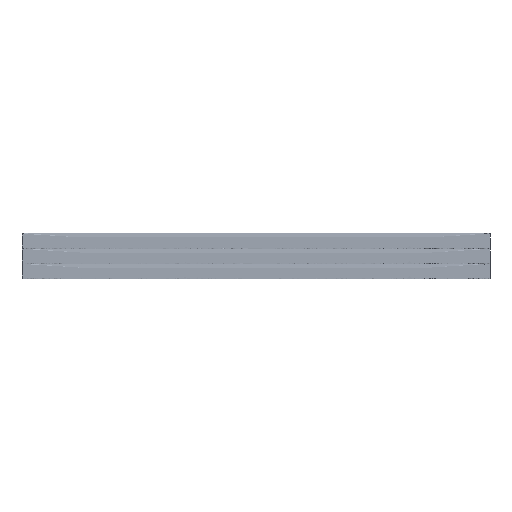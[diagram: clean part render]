
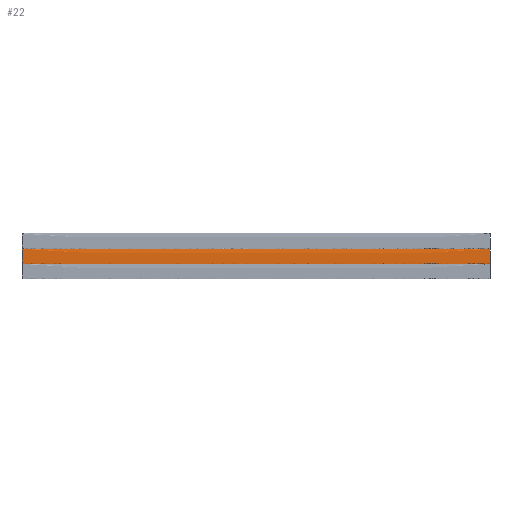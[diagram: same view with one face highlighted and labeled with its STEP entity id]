
A CAD part, top view. The second image highlights one B-rep face of the part: STEP entity #22.
In plain terms, the highlighted free-form (B-spline) face has degree [2, 1] with [17, 2] control points.
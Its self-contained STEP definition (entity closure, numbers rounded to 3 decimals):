
#22=ADVANCED_FACE('',(#25),#79,.T.);
#25=FACE_OUTER_BOUND('',#28,.T.);
#28=EDGE_LOOP('',(#34,#35,#36,#37));
#34=ORIENTED_EDGE('',*,*,#46,.T.);
#35=ORIENTED_EDGE('',*,*,#47,.T.);
#36=ORIENTED_EDGE('',*,*,#48,.T.);
#37=ORIENTED_EDGE('',*,*,#49,.T.);
#46=EDGE_CURVE('',#70,#71,#62,.T.);
#47=EDGE_CURVE('',#71,#72,#56,.T.);
#48=EDGE_CURVE('',#72,#73,#63,.T.);
#49=EDGE_CURVE('',#73,#70,#57,.T.);
#56=B_SPLINE_CURVE_WITH_KNOTS('',1,(#238,#239),.UNSPECIFIED.,.F.,.F.,(2,
2),(0.,6200.),.UNSPECIFIED.);
#57=B_SPLINE_CURVE_WITH_KNOTS('',1,(#257,#258),.UNSPECIFIED.,.F.,.F.,(2,
2),(-6200.,0.),.UNSPECIFIED.);
#62=(
BOUNDED_CURVE()
B_SPLINE_CURVE(2,(#221,#222,#223,#224,#225,#226,#227,#228,#229,#230,#231,
#232,#233,#234,#235,#236,#237),.UNSPECIFIED.,.F.,.F.)
B_SPLINE_CURVE_WITH_KNOTS((3,2,2,2,2,2,2,2,3),(260.192,261.675,
262.508,264.079,459.079,460.649,462.649,
464.22,470.82),.UNSPECIFIED.)
CURVE()
GEOMETRIC_REPRESENTATION_ITEM()
RATIONAL_B_SPLINE_CURVE((1.,0.737,1.,1.,1.,0.707,
1.,1.,1.,0.707,1.,1.,1.,0.707,1.,1.,1.))
REPRESENTATION_ITEM('')
);
#63=(
BOUNDED_CURVE()
B_SPLINE_CURVE(2,(#240,#241,#242,#243,#244,#245,#246,#247,#248,#249,#250,
#251,#252,#253,#254,#255,#256),.UNSPECIFIED.,.F.,.F.)
B_SPLINE_CURVE_WITH_KNOTS((3,2,2,2,2,2,2,2,3),(-470.82,-464.22,
-462.649,-460.649,-459.079,-264.079,
-262.508,-261.675,-260.192),.UNSPECIFIED.)
CURVE()
GEOMETRIC_REPRESENTATION_ITEM()
RATIONAL_B_SPLINE_CURVE((1.,1.,1.,0.707,1.,1.,1.,0.707,
1.,1.,1.,0.707,1.,1.,1.,0.737,1.))
REPRESENTATION_ITEM('')
);
#70=VERTEX_POINT('',#217);
#71=VERTEX_POINT('',#218);
#72=VERTEX_POINT('',#219);
#73=VERTEX_POINT('',#220);
#79=(
BOUNDED_SURFACE()
B_SPLINE_SURFACE(2,1,((#183,#184),(#185,#186),(#187,#188),(#189,#190),(#191,
#192),(#193,#194),(#195,#196),(#197,#198),(#199,#200),(#201,#202),(#203,
#204),(#205,#206),(#207,#208),(#209,#210),(#211,#212),(#213,#214),(#215,
#216)),.UNSPECIFIED.,.F.,.F.,.F.)
B_SPLINE_SURFACE_WITH_KNOTS((3,2,2,2,2,2,2,2,3),(2,2),(260.192,
261.675,262.508,264.079,459.079,460.649,
462.649,464.22,470.82),(0.,6200.),
 .UNSPECIFIED.)
GEOMETRIC_REPRESENTATION_ITEM()
RATIONAL_B_SPLINE_SURFACE(((1.,1.),(0.737,0.737),
(1.,1.),(1.,1.),(1.,1.),(0.707,0.707),(1.,1.),(1.,
1.),(1.,1.),(0.707,0.707),(1.,1.),(1.,1.),(1.,1.),
(0.707,0.707),(1.,1.),(1.,1.),(1.,1.)))
REPRESENTATION_ITEM('')
SURFACE()
);
#183=CARTESIAN_POINT('',(3100.,200.,0.));
#184=CARTESIAN_POINT('',(-3100.,200.,0.));
#185=CARTESIAN_POINT('',(3100.,197.718,0.2));
#186=CARTESIAN_POINT('',(-3100.,197.718,0.2));
#187=CARTESIAN_POINT('',(3100.,197.718,2.49));
#188=CARTESIAN_POINT('',(-3100.,197.718,2.49));
#189=CARTESIAN_POINT('',(3100.,197.718,2.902));
#190=CARTESIAN_POINT('',(-3100.,197.718,2.902));
#191=CARTESIAN_POINT('',(3100.,197.718,3.314));
#192=CARTESIAN_POINT('',(-3100.,197.718,3.314));
#193=CARTESIAN_POINT('',(3100.,197.718,5.814));
#194=CARTESIAN_POINT('',(-3100.,197.718,5.814));
#195=CARTESIAN_POINT('',(3100.,200.218,5.814));
#196=CARTESIAN_POINT('',(-3100.,200.218,5.814));
#197=CARTESIAN_POINT('',(3100.,297.718,5.814));
#198=CARTESIAN_POINT('',(-3100.,297.718,5.814));
#199=CARTESIAN_POINT('',(3100.,395.218,5.814));
#200=CARTESIAN_POINT('',(-3100.,395.218,5.814));
#201=CARTESIAN_POINT('',(3100.,397.718,5.814));
#202=CARTESIAN_POINT('',(-3100.,397.718,5.814));
#203=CARTESIAN_POINT('',(3100.,397.718,3.314));
#204=CARTESIAN_POINT('',(-3100.,397.718,3.314));
#205=CARTESIAN_POINT('',(3100.,397.718,2.314));
#206=CARTESIAN_POINT('',(-3100.,397.718,2.314));
#207=CARTESIAN_POINT('',(3100.,397.718,1.314));
#208=CARTESIAN_POINT('',(-3100.,397.718,1.314));
#209=CARTESIAN_POINT('',(3100.,397.718,-0.686));
#210=CARTESIAN_POINT('',(-3100.,397.718,-0.686));
#211=CARTESIAN_POINT('',(3100.,399.718,-0.686));
#212=CARTESIAN_POINT('',(-3100.,399.718,-0.686));
#213=CARTESIAN_POINT('',(3100.,403.018,-0.686));
#214=CARTESIAN_POINT('',(-3100.,403.018,-0.686));
#215=CARTESIAN_POINT('',(3100.,406.318,-0.686));
#216=CARTESIAN_POINT('',(-3100.,406.318,-0.686));
#217=CARTESIAN_POINT('',(3100.,200.,0.));
#218=CARTESIAN_POINT('',(3100.,406.318,-0.686));
#219=CARTESIAN_POINT('',(-3100.,406.318,-0.686));
#220=CARTESIAN_POINT('',(-3100.,200.,0.));
#221=CARTESIAN_POINT('',(3100.,200.,0.));
#222=CARTESIAN_POINT('',(3100.,197.718,0.2));
#223=CARTESIAN_POINT('',(3100.,197.718,2.49));
#224=CARTESIAN_POINT('',(3100.,197.718,2.902));
#225=CARTESIAN_POINT('',(3100.,197.718,3.314));
#226=CARTESIAN_POINT('',(3100.,197.718,5.814));
#227=CARTESIAN_POINT('',(3100.,200.218,5.814));
#228=CARTESIAN_POINT('',(3100.,297.718,5.814));
#229=CARTESIAN_POINT('',(3100.,395.218,5.814));
#230=CARTESIAN_POINT('',(3100.,397.718,5.814));
#231=CARTESIAN_POINT('',(3100.,397.718,3.314));
#232=CARTESIAN_POINT('',(3100.,397.718,2.314));
#233=CARTESIAN_POINT('',(3100.,397.718,1.314));
#234=CARTESIAN_POINT('',(3100.,397.718,-0.686));
#235=CARTESIAN_POINT('',(3100.,399.718,-0.686));
#236=CARTESIAN_POINT('',(3100.,403.018,-0.686));
#237=CARTESIAN_POINT('',(3100.,406.318,-0.686));
#238=CARTESIAN_POINT('',(3100.,406.318,-0.686));
#239=CARTESIAN_POINT('',(-3100.,406.318,-0.686));
#240=CARTESIAN_POINT('',(-3100.,406.318,-0.686));
#241=CARTESIAN_POINT('',(-3100.,403.018,-0.686));
#242=CARTESIAN_POINT('',(-3100.,399.718,-0.686));
#243=CARTESIAN_POINT('',(-3100.,397.718,-0.686));
#244=CARTESIAN_POINT('',(-3100.,397.718,1.314));
#245=CARTESIAN_POINT('',(-3100.,397.718,2.314));
#246=CARTESIAN_POINT('',(-3100.,397.718,3.314));
#247=CARTESIAN_POINT('',(-3100.,397.718,5.814));
#248=CARTESIAN_POINT('',(-3100.,395.218,5.814));
#249=CARTESIAN_POINT('',(-3100.,297.718,5.814));
#250=CARTESIAN_POINT('',(-3100.,200.218,5.814));
#251=CARTESIAN_POINT('',(-3100.,197.718,5.814));
#252=CARTESIAN_POINT('',(-3100.,197.718,3.314));
#253=CARTESIAN_POINT('',(-3100.,197.718,2.902));
#254=CARTESIAN_POINT('',(-3100.,197.718,2.49));
#255=CARTESIAN_POINT('',(-3100.,197.718,0.2));
#256=CARTESIAN_POINT('',(-3100.,200.,0.));
#257=CARTESIAN_POINT('',(-3100.,200.,0.));
#258=CARTESIAN_POINT('',(3100.,200.,0.));
